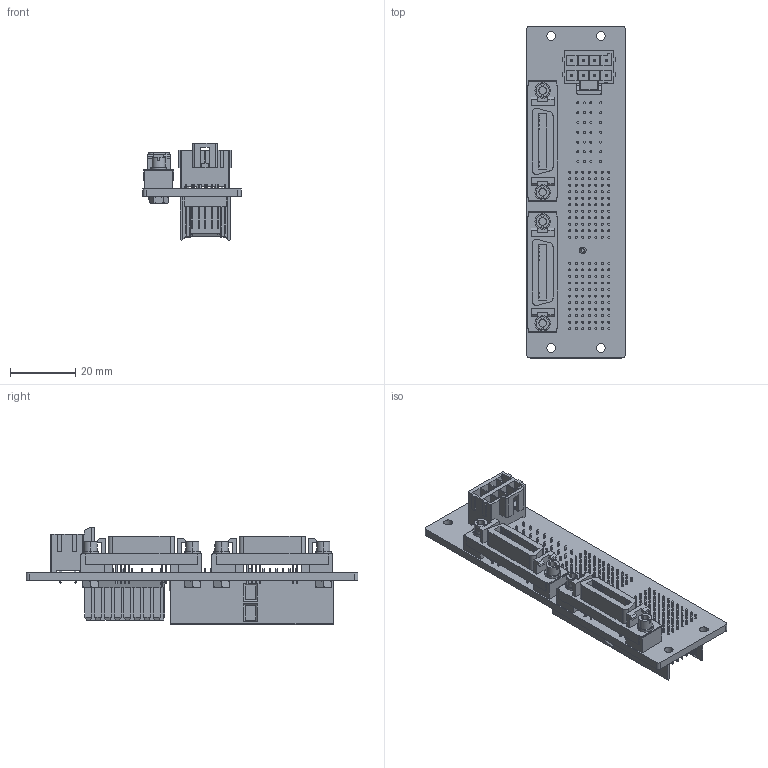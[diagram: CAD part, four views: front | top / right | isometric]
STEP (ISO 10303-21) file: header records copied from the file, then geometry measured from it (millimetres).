
FILE_DESCRIPTION((''),'2;1');
FILE_NAME('CU_RTI-12307','2018-08-14T',('dkendric'),(''),'CREO PARAMETRIC BY PTC INC, 2017480','CREO PARAMETRIC BY PTC INC, 2017480','');
FILE_SCHEMA(('AUTOMOTIVE_DESIGN { 1 0 10303 214 1 1 1 1 }'));
Products named in the file (1): CU_RTI-12307
Bounding box: 30.22 x 101.86 x 29.8 mm (x, y, z)
Volume: 18864.3 mm3; surface area: 21730.4 mm2
Topology: 1 solids, 1 shells, 4301 faces, 11046 edges, 7271 vertices
Faces by surface type: plane 3468, cylinder 691, torus 80, cone 58, sphere 2, extrusion 2
Entity records: 163257 total; most frequent: CARTESIAN_POINT 25437, ORIENTED_EDGE 22092, DIRECTION 20848, EDGE_CURVE 11046, VECTOR 9166, LINE 9164, VERTEX_POINT 7271, AXIS2_PLACEMENT_3D 5841
